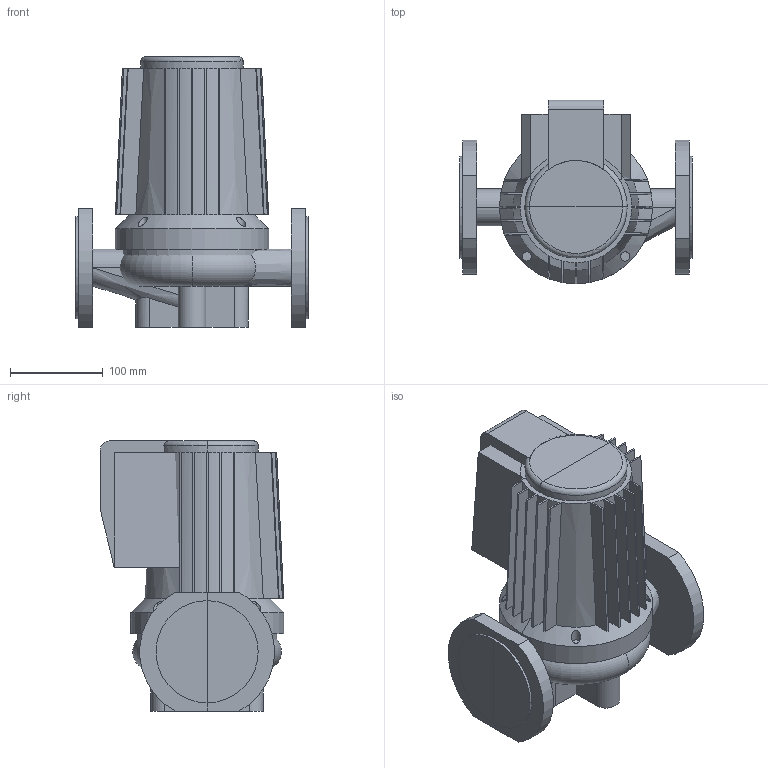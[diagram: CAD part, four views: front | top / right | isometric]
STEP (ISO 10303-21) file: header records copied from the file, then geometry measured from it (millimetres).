
FILE_DESCRIPTION(/* description */ (''),/* implementation_level */ '2;1');
FILE_NAME(/* name */ 'C:\Users\a.zyazeva\Desktop\Wellmix\TG TD WRE WRS\WRS 40-100 F (220 В).stp',/* time_stamp */ '2024-08-28T00:14:21+03:00',/* author */ ('a.zyazeva'),/* organization */ (''),/* preprocessor_version */ 'ST-DEVELOPER v18.1',/* originating_system */ 'Autodesk Inventor 2022',/* authorisation */ '');
FILE_SCHEMA (('AUTOMOTIVE_DESIGN { 1 0 10303 214 3 1 1 }'));
Length unit declared in the file: millimetre
Products named in the file (1): WRS 40-100 F (220 В)
Bounding box: 250 x 197.5 x 291 mm (x, y, z)
Volume: 6480177.7 mm3; surface area: 546948 mm2
Topology: 6 solids, 6 shells, 175 faces, 427 edges, 265 vertices
Faces by surface type: plane 105, cylinder 30, cone 17, bspline 17, torus 6
Entity records: 6631 total; most frequent: CARTESIAN_POINT 2700, ORIENTED_EDGE 854, DIRECTION 737, EDGE_CURVE 427, VERTEX_POINT 265, AXIS2_PLACEMENT_3D 264, LINE 209, VECTOR 209
